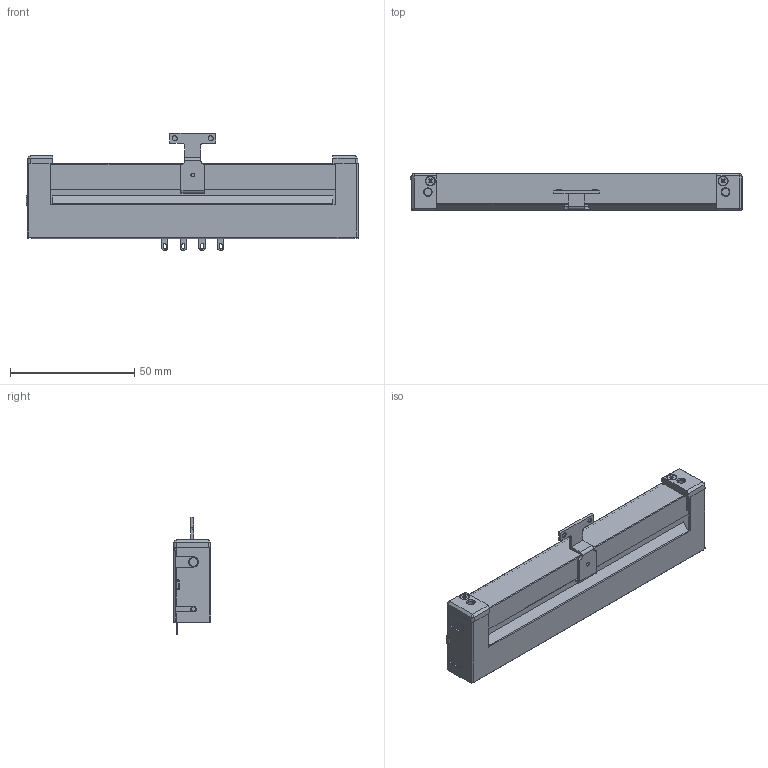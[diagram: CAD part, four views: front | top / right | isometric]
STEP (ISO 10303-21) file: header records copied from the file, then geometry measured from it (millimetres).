
FILE_DESCRIPTION(('FreeCAD Model'),'2;1');
FILE_NAME('Open CASCADE Shape Model','2023-04-07T10:35:06',(''),(''), 'Open CASCADE STEP processor 7.6','FreeCAD','Unknown');
FILE_SCHEMA(('AUTOMOTIVE_DESIGN { 1 0 10303 214 1 1 1 1 }'));
Length unit declared in the file: millimetre
Products named in the file (1): cpa-9101
Bounding box: 133.8 x 15.2 x 47.3 mm (x, y, z)
Volume: 49442.9 mm3; surface area: 26112.8 mm2
Topology: 1 solids, 6 shells, 535 faces, 1375 edges, 857 vertices
Faces by surface type: plane 380, cylinder 96, cone 31, bspline 18, revolution 4, torus 4, sphere 2
Full cylindrical faces by diameter (mm): 1.1 x2, 1.5 x2, 1.6 x3, 2 x8, 2.2 x7, 2.6 x3, 3 x2, 3.6 x2, 4 x8
Entity records: 36535 total; most frequent: CARTESIAN_POINT 7437, DIRECTION 4697, LINE 2892, VECTOR 2892, ORIENTED_EDGE 2748, PCURVE 2742, DEFINITIONAL_REPRESENTATION 2742, EDGE_CURVE 1371
